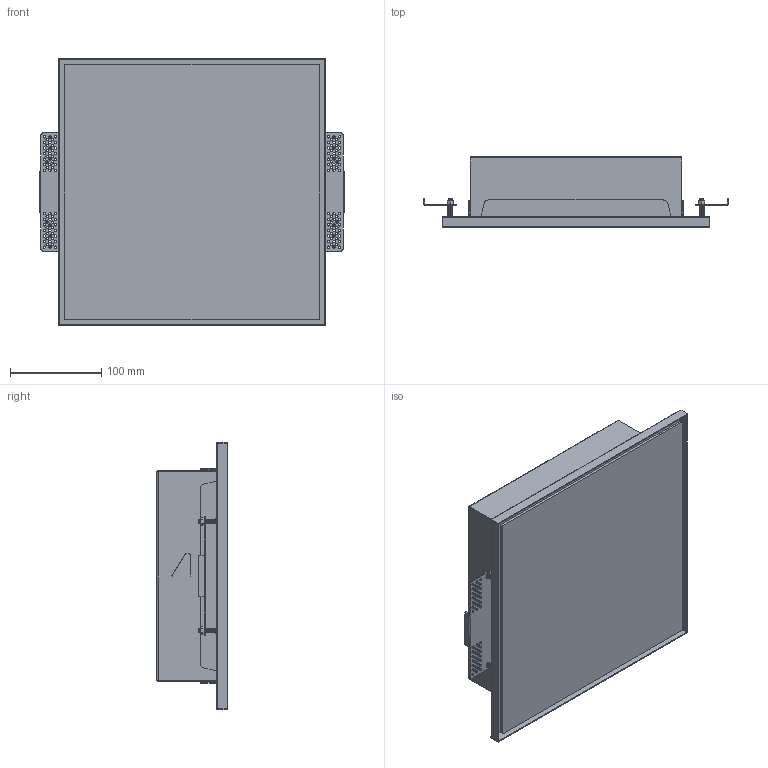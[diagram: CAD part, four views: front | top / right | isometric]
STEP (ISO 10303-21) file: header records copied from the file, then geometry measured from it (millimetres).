
FILE_DESCRIPTION(/* description */ (''),/* implementation_level */ '2;1');
FILE_NAME(/* name */ 'X02201.030',/* time_stamp */ '2024-08-30T11:46:49+02:00',/* author */ (''),/* organization */ (''),/* preprocessor_version */ 'ST-DEVELOPER v16.5',/* originating_system */ '',/* authorisation */ '');
FILE_SCHEMA (('AUTOMOTIVE_DESIGN'));
Length unit declared in the file: millimetre
Products named in the file (1): Document
Bounding box: 334.4 x 77 x 294 mm (x, y, z)
Volume: 680818.1 mm3; surface area: 802942.5 mm2
Topology: 21 solids, 21 shells, 1733 faces, 3947 edges, 2258 vertices
Faces by surface type: bspline 1451, plane 282
Entity records: 65834 total; most frequent: CARTESIAN_POINT 42854, ORIENTED_EDGE 7894, EDGE_CURVE 3947, VERTEX_POINT 2258, EDGE_LOOP 2081, B_SPLINE_CURVE_WITH_KNOTS 2045, ADVANCED_FACE 1733, FACE_OUTER_BOUND 1733
